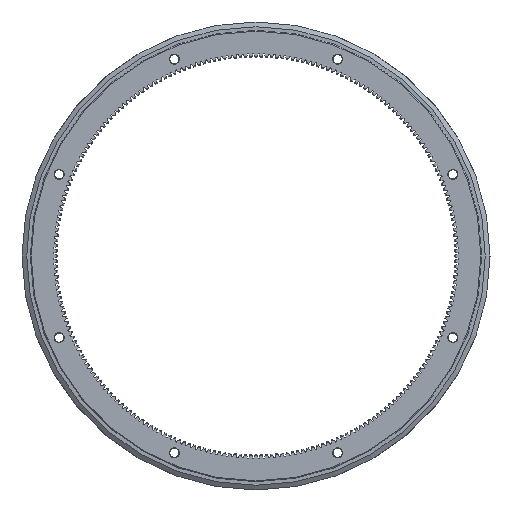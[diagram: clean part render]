
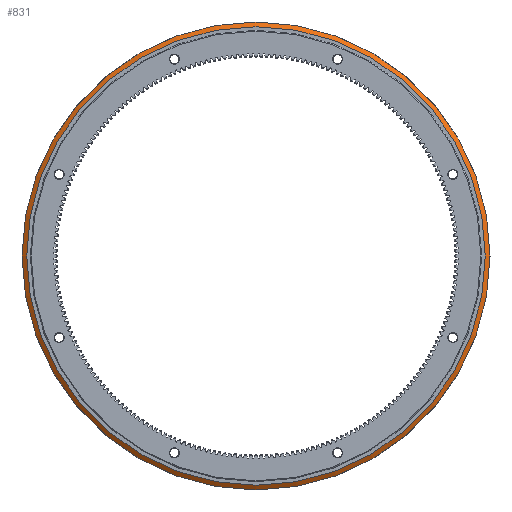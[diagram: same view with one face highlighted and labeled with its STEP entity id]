
A CAD part, front view. The second image highlights one B-rep face of the part: STEP entity #831.
In plain terms, the highlighted conical face has half-angle 55 degrees and reference radius 137.157 mm.
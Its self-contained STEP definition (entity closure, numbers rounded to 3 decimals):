
#831 = ADVANCED_FACE( '', ( #2865, #2866 ), #2867, .T. );
#2865 = FACE_OUTER_BOUND( '', #5408, .T. );
#2866 = FACE_BOUND( '', #5409, .T. );
#2867 = CONICAL_SURFACE( '', #5410, 137.157, 0.96 );
#5408 = EDGE_LOOP( '', ( #12107 ) );
#5409 = EDGE_LOOP( '', ( #12108 ) );
#5410 = AXIS2_PLACEMENT_3D( '', #12109, #12110, #12111 );
#12107 = ORIENTED_EDGE( '', *, *, #20349, .T. );
#12108 = ORIENTED_EDGE( '', *, *, #20350, .F. );
#12109 = CARTESIAN_POINT( '', ( 0., 7.75, 0. ) );
#12110 = DIRECTION( '', ( 0., 1., 0. ) );
#12111 = DIRECTION( '', ( 0., 0., 1. ) );
#20349 = EDGE_CURVE( '', #26430, #26430, #26431, .T. );
#20350 = EDGE_CURVE( '', #26432, #26432, #26433, .T. );
#26430 = VERTEX_POINT( '', #35874 );
#26431 = CIRCLE( '', #35875, 139.785 );
#26432 = VERTEX_POINT( '', #35876 );
#26433 = CIRCLE( '', #35877, 137.157 );
#35874 = CARTESIAN_POINT( '', ( 0., 9.59, -139.785 ) );
#35875 = AXIS2_PLACEMENT_3D( '', #40134, #40135, #40136 );
#35876 = CARTESIAN_POINT( '', ( 0., 7.75, -137.157 ) );
#35877 = AXIS2_PLACEMENT_3D( '', #40137, #40138, #40139 );
#40134 = CARTESIAN_POINT( '', ( 0., 9.59, 0. ) );
#40135 = DIRECTION( '', ( 0., -1., 0. ) );
#40136 = DIRECTION( '', ( 0., 0., -1. ) );
#40137 = CARTESIAN_POINT( '', ( 0., 7.75, 0. ) );
#40138 = DIRECTION( '', ( 0., -1., 0. ) );
#40139 = DIRECTION( '', ( 0., 0., -1. ) );
